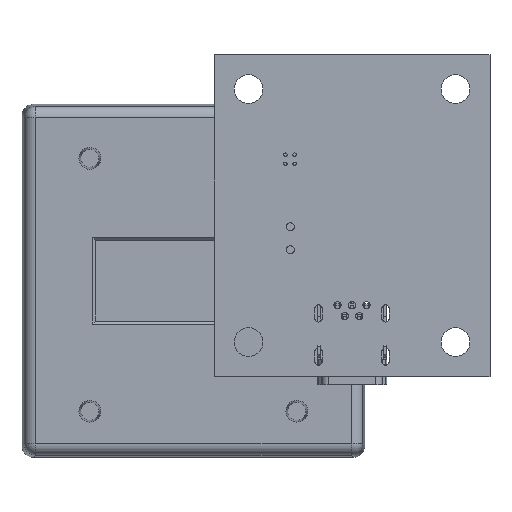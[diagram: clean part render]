
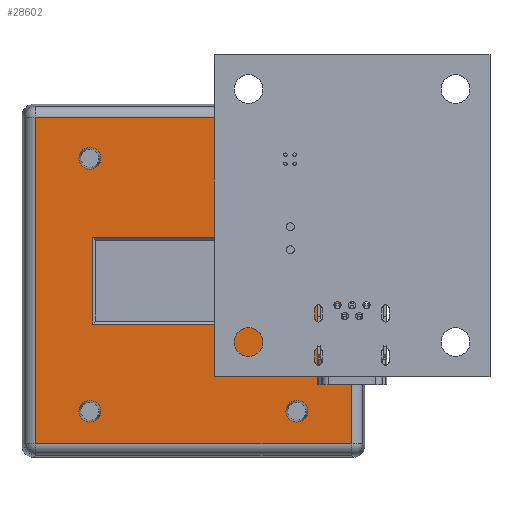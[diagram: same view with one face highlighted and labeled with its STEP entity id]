
A CAD part, top view. The second image highlights one B-rep face of the part: STEP entity #28602.
In plain terms, the highlighted planar face has unit normal (0, 0, 1).
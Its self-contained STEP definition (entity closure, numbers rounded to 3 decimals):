
#13624=CIRCLE('',#29960,1.199);
#13625=CIRCLE('',#29961,1.199);
#13626=CIRCLE('',#29962,1.199);
#13627=CIRCLE('',#29963,1.199);
#15153=VERTEX_POINT('',#39546);
#15154=VERTEX_POINT('',#39547);
#15155=VERTEX_POINT('',#39549);
#15156=VERTEX_POINT('',#39551);
#15157=VERTEX_POINT('',#39554);
#15158=VERTEX_POINT('',#39556);
#15159=VERTEX_POINT('',#39558);
#15160=VERTEX_POINT('',#39560);
#15161=VERTEX_POINT('',#39562);
#15162=VERTEX_POINT('',#39563);
#15163=VERTEX_POINT('',#39565);
#15164=VERTEX_POINT('',#39567);
#17074=VECTOR('',#33835,1.);
#17075=VECTOR('',#33836,1.);
#17076=VECTOR('',#33837,1.);
#17077=VECTOR('',#33838,1.);
#17078=VECTOR('',#33847,1.);
#17079=VECTOR('',#33848,1.);
#17080=VECTOR('',#33849,1.);
#17081=VECTOR('',#33850,1.);
#19039=LINE('',#39545,#17074);
#19040=LINE('',#39548,#17075);
#19041=LINE('',#39550,#17076);
#19042=LINE('',#39552,#17077);
#19043=LINE('',#39561,#17078);
#19044=LINE('',#39564,#17079);
#19045=LINE('',#39566,#17080);
#19046=LINE('',#39568,#17081);
#21264=EDGE_CURVE('',#15153,#15154,#19039,.T.);
#21265=EDGE_CURVE('',#15154,#15155,#19040,.T.);
#21266=EDGE_CURVE('',#15155,#15156,#19041,.T.);
#21267=EDGE_CURVE('',#15156,#15153,#19042,.T.);
#21268=EDGE_CURVE('',#15157,#15157,#13624,.T.);
#21269=EDGE_CURVE('',#15158,#15158,#13625,.T.);
#21270=EDGE_CURVE('',#15159,#15159,#13626,.T.);
#21271=EDGE_CURVE('',#15160,#15160,#13627,.T.);
#21272=EDGE_CURVE('',#15161,#15162,#19043,.T.);
#21273=EDGE_CURVE('',#15163,#15161,#19044,.T.);
#21274=EDGE_CURVE('',#15164,#15163,#19045,.T.);
#21275=EDGE_CURVE('',#15162,#15164,#19046,.T.);
#25490=ORIENTED_EDGE('',*,*,#21264,.T.);
#25491=ORIENTED_EDGE('',*,*,#21265,.T.);
#25492=ORIENTED_EDGE('',*,*,#21266,.T.);
#25493=ORIENTED_EDGE('',*,*,#21267,.T.);
#25494=ORIENTED_EDGE('',*,*,#21268,.T.);
#25495=ORIENTED_EDGE('',*,*,#21269,.T.);
#25496=ORIENTED_EDGE('',*,*,#21270,.T.);
#25497=ORIENTED_EDGE('',*,*,#21271,.T.);
#25498=ORIENTED_EDGE('',*,*,#21272,.F.);
#25499=ORIENTED_EDGE('',*,*,#21273,.F.);
#25500=ORIENTED_EDGE('',*,*,#21274,.F.);
#25501=ORIENTED_EDGE('',*,*,#21275,.F.);
#26803=EDGE_LOOP('',(#25490,#25491,#25492,#25493));
#26804=EDGE_LOOP('',(#25494));
#26805=EDGE_LOOP('',(#25495));
#26806=EDGE_LOOP('',(#25496));
#26807=EDGE_LOOP('',(#25497));
#26808=EDGE_LOOP('',(#25498,#25499,#25500,#25501));
#27738=FACE_BOUND('',#26803,.T.);
#27739=FACE_BOUND('',#26804,.T.);
#27740=FACE_BOUND('',#26805,.T.);
#27741=FACE_BOUND('',#26806,.T.);
#27742=FACE_BOUND('',#26807,.T.);
#27743=FACE_BOUND('',#26808,.T.);
#28602=ADVANCED_FACE('',(#27738,#27739,#27740,#27741,#27742,#27743),#40564,
 .F.);
#29959=AXIS2_PLACEMENT_3D('',#39544,#33834,$);
#29960=AXIS2_PLACEMENT_3D('',#39553,#33839,#33840);
#29961=AXIS2_PLACEMENT_3D('',#39555,#33841,#33842);
#29962=AXIS2_PLACEMENT_3D('',#39557,#33843,#33844);
#29963=AXIS2_PLACEMENT_3D('',#39559,#33845,#33846);
#33834=DIRECTION('',(0.,0.,-1.));
#33835=DIRECTION('',(0.,-1.,0.));
#33836=DIRECTION('',(-1.,0.,0.));
#33837=DIRECTION('',(0.,1.,0.));
#33838=DIRECTION('',(1.,0.,0.));
#33839=DIRECTION('',(0.,0.,-1.));
#33840=DIRECTION('',(0.,1.199,0.));
#33841=DIRECTION('',(0.,0.,-1.));
#33842=DIRECTION('',(0.,1.199,0.));
#33843=DIRECTION('',(0.,0.,-1.));
#33844=DIRECTION('',(0.,1.199,0.));
#33845=DIRECTION('',(0.,0.,-1.));
#33846=DIRECTION('',(0.,1.199,0.));
#33847=DIRECTION('',(1.,0.,0.));
#33848=DIRECTION('',(0.,1.,0.));
#33849=DIRECTION('',(-1.,0.,0.));
#33850=DIRECTION('',(0.,-1.,0.));
#39544=CARTESIAN_POINT('',(0.005,0.,13.684));
#39545=CARTESIAN_POINT('',(11.131,0.,13.684));
#39546=CARTESIAN_POINT('',(11.131,4.775,13.684));
#39547=CARTESIAN_POINT('',(11.131,-4.775,13.684));
#39548=CARTESIAN_POINT('',(0.005,-4.775,13.684));
#39549=CARTESIAN_POINT('',(-11.12,-4.775,13.684));
#39550=CARTESIAN_POINT('',(-11.12,0.,13.684));
#39551=CARTESIAN_POINT('',(-11.12,4.775,13.684));
#39552=CARTESIAN_POINT('',(0.005,4.775,13.684));
#39553=CARTESIAN_POINT('',(11.435,-14.415,13.684));
#39554=CARTESIAN_POINT('',(11.435,-13.215,13.684));
#39555=CARTESIAN_POINT('',(-11.425,13.526,13.684));
#39556=CARTESIAN_POINT('',(-11.425,14.725,13.684));
#39557=CARTESIAN_POINT('',(-11.425,-14.415,13.684));
#39558=CARTESIAN_POINT('',(-11.425,-13.215,13.684));
#39559=CARTESIAN_POINT('',(11.435,13.526,13.684));
#39560=CARTESIAN_POINT('',(11.435,14.725,13.684));
#39561=CARTESIAN_POINT('',(0.005,18.007,13.684));
#39562=CARTESIAN_POINT('',(-17.431,18.007,13.684));
#39563=CARTESIAN_POINT('',(17.441,18.007,13.684));
#39564=CARTESIAN_POINT('',(-17.431,0.,13.684));
#39565=CARTESIAN_POINT('',(-17.431,-18.007,13.684));
#39566=CARTESIAN_POINT('',(0.005,-18.007,13.684));
#39567=CARTESIAN_POINT('',(17.441,-18.007,13.684));
#39568=CARTESIAN_POINT('',(17.441,0.,13.684));
#40564=PLANE('',#29959);
